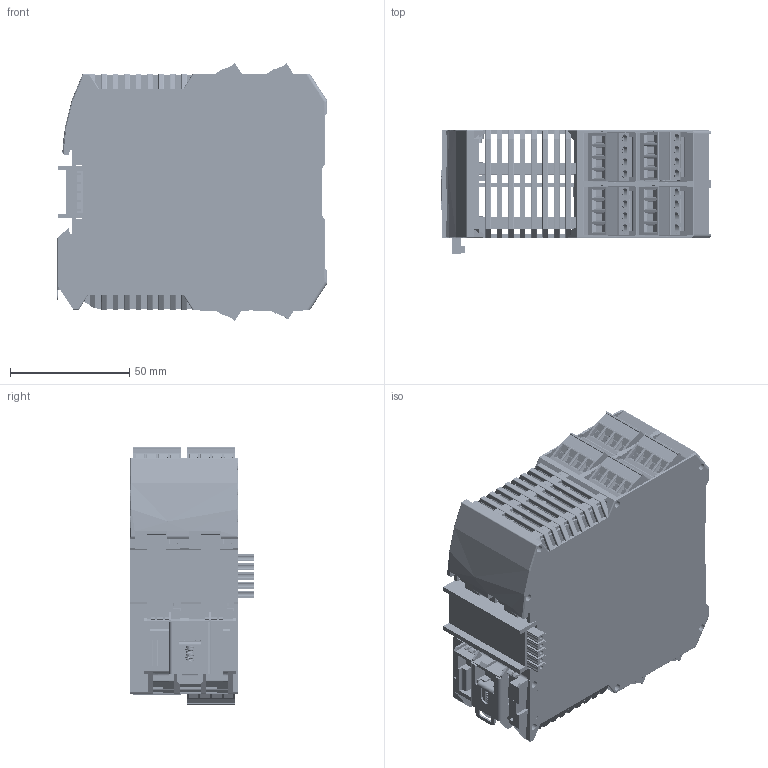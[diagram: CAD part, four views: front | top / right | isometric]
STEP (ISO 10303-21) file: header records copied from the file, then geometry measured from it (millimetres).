
FILE_DESCRIPTION(('STEP AP214'), '1');
FILE_NAME('MIS-1AC-230-3R-SD â ñòåïêóóóâöööö', '', ('UNSPECIFIED'), ('UNSPECIFIED'), 'C3D Converter', 'C3D Toolkit', '');
FILE_SCHEMA(('AUTOMOTIVE_DESIGN { 1 0 10303 214 3 1 1}'));
Length unit declared in the file: millimetre
Bounding box: 113.65 x 51.8 x 108 mm (x, y, z)
Volume: 121912.4 mm3; surface area: 153087.4 mm2
Topology: 4 solids, 45 shells, 9196 faces, 25824 edges, 16937 vertices
Faces by surface type: plane 5946, extrusion 1925, cylinder 1212, cone 100, bspline 6, revolution 4, torus 3
Full cylindrical faces by diameter (mm): 0.3 x7, 0.6 x4, 1 x64, 1.35 x1, 1.4 x21, 1.6 x21, 2 x23, 2.2 x14, 2.5 x1, 2.8 x24, 3 x16, 3.796 x24, 4 x24, 4.5 x1
Entity records: 382203 total; most frequent: CARTESIAN_POINT 78546, ORIENTED_EDGE 51063, DIRECTION 40076, EDGE_CURVE 25533, VECTOR 20600, LINE 18675, VERTEX_POINT 16938, EDGE_LOOP 10257
